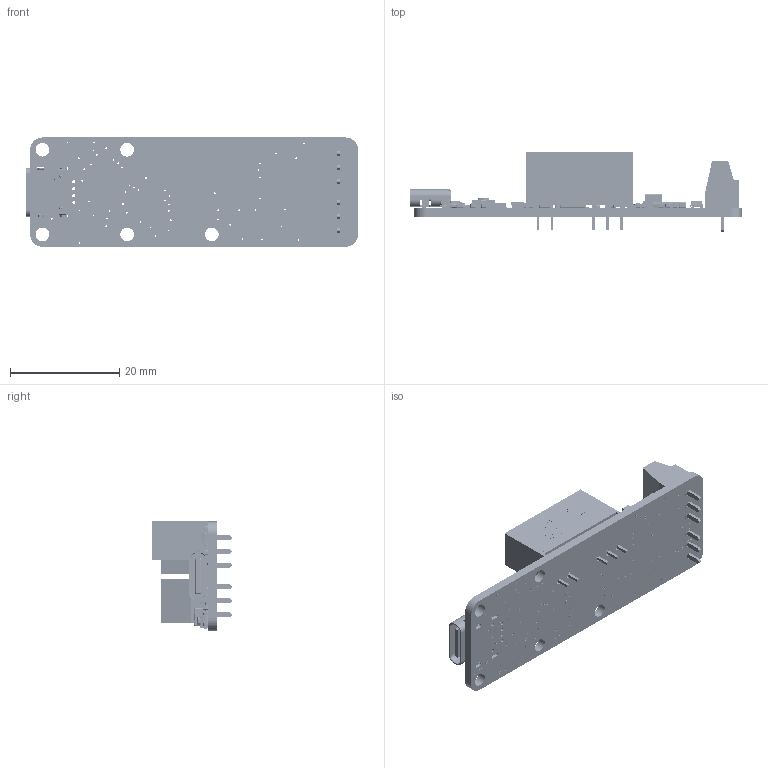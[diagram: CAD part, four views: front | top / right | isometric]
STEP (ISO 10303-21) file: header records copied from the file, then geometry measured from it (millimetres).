
FILE_DESCRIPTION (( 'STEP AP214' ), '1' );
FILE_NAME ('RX420M1C.STEP', '2025-01-15T12:49:08', ( '' ), ( '' ), 'SwSTEP 2.0', 'SolidWorks 2008', '' );
FILE_SCHEMA (( 'AUTOMOTIVE_DESIGN' ));
Length unit declared in the file: millimetre
Products named in the file (45): D4; FLASH1; IC1; C11; D2; C48; C2; C26; P3; R1; R2; R4; R5; R12; L1; R13; R15; Alim1; C16; AD1; C14; C21; PCB; C18; C19; PVSS; T4; c23; T3; RX420M1C; U1; R17; SW1; REG2; R27; R26; reg3; R22; c15; YLED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
Assembly tree (76 placements, depth 2):
  PVSS
  RX420M1C
    SW1
    R5
    R17
    R4
    USB1
    R19
    R1
    R22  x6
    c15  x2
    T4  x2
    REG2  x2
    AD1
    C21  x2
    C48
    C11  x9
    YLED
    D4  x2
    P3  x2
    R29  x4
    C26  x2
    R15  x2
    D2  x2
    T3  x2
    R26  x4
    R2
    sens1
    U1
    reg3
    C18  x3
    FLASH1
    C16
    C19
    IC1
    Alim1
    c23
    R13  x2
    R27  x2
    L1
    R12
    C2
    PCB
    C14
    R16
Bounding box: 60.75 x 14.61 x 20.04 mm (x, y, z)
Volume: 4257.7 mm3; surface area: 6105.6 mm2
Topology: 89 solids, 89 shells, 10037 faces, 26206 edges, 16969 vertices
Faces by surface type: plane 6403, cylinder 2265, bspline 1142, sphere 208, cone 12, torus 7
Entity records: 359161 total; most frequent: CARTESIAN_POINT 92446, ORIENTED_EDGE 40766, DIRECTION 36347, EDGE_CURVE 20383, LINE 14965, VECTOR 14965, VERTEX_POINT 13406, AXIS2_PLACEMENT_3D 10691
